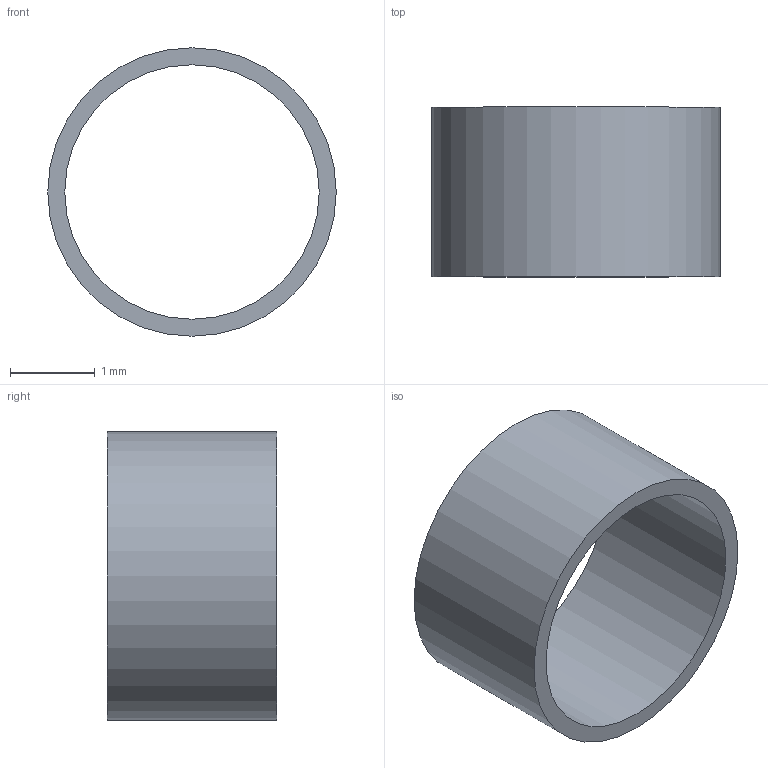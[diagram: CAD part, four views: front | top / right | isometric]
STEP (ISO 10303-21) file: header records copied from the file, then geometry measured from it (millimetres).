
FILE_DESCRIPTION(('FreeCAD Model'),'2;1');
FILE_NAME('Open CASCADE Shape Model','2026-10-30T14:44:39',('FreeCAD'),( 'FreeCAD'),'Open CASCADE STEP processor 7.8','FreeCAD','Unknown');
FILE_SCHEMA(('AUTOMOTIVE_DESIGN { 1 0 10303 214 1 1 1 1 }'));
Length unit declared in the file: millimetre
Products named in the file (1): Open CASCADE STEP translator 7.8 14
Bounding box: 3.4 x 2 x 3.4 mm (x, y, z)
Volume: 4 mm3; surface area: 44.2 mm2
Topology: 1 solids, 1 shells, 4 faces, 6 edges, 4 vertices
Faces by surface type: cylinder 2, plane 2
Full cylindrical faces by diameter (mm): 3 x1, 3.4 x1
Entity records: 108 total; most frequent: DIRECTION 20, CARTESIAN_POINT 15, ORIENTED_EDGE 12, AXIS2_PLACEMENT_3D 9, FACE_BOUND 6, EDGE_LOOP 6, EDGE_CURVE 6, ADVANCED_FACE 4
